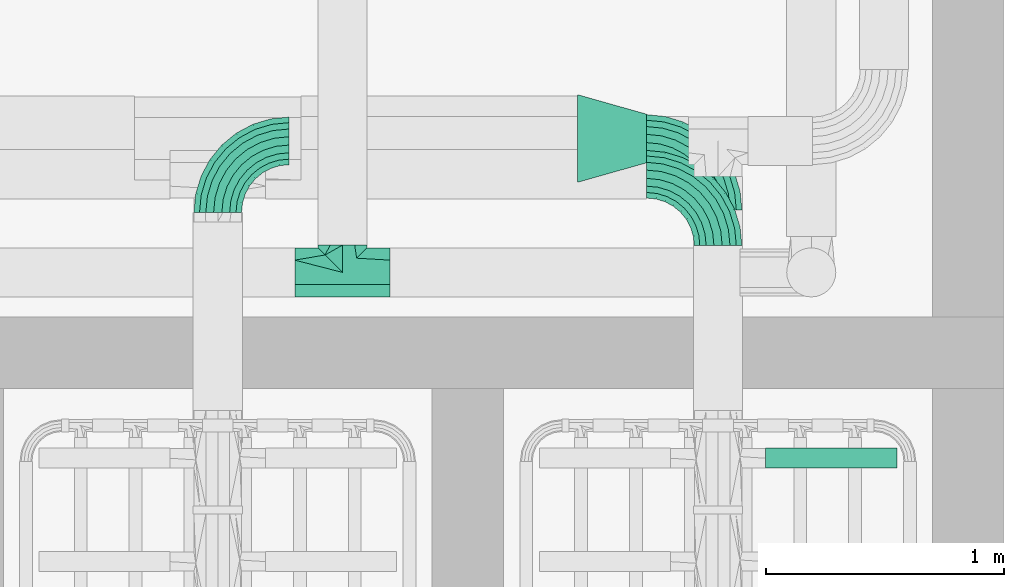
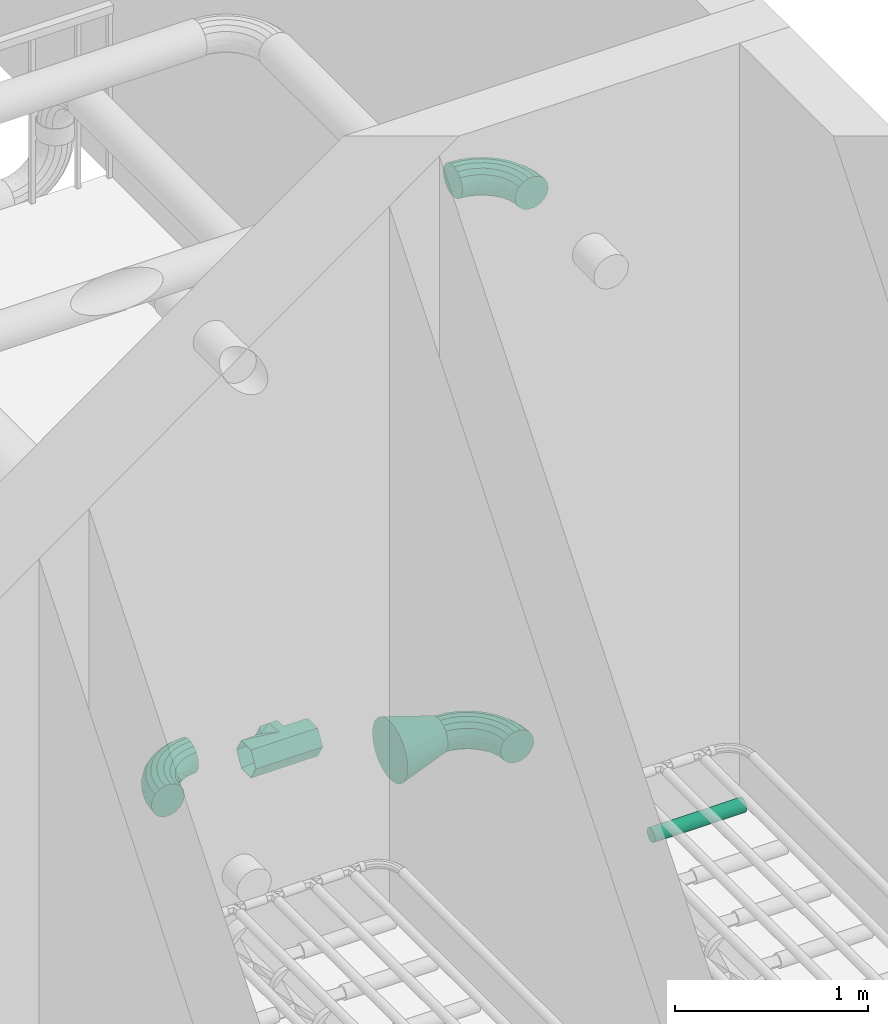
# One storey, part 22 of 28: 5 flow fittings, 1 flow segment.
"""IFC2X3 building model written with IfcOpenShell, lengths in millimetres."""

from ifc_helpers import new_model, entity, si_unit, converted_unit, direction, frame, origin, origin_2d_with_axis, place, context, subcontext, project, spatial, circle, extrude, faceted_brep, source, transform, mapped, material, type_object, type_shapes, element, save


model = new_model("IFC2X3")

# Units and contexts
model_context = context("Model", 3, precision=0.01, world=origin(), true_north=direction((6.123031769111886e-17, 1.0)))
body_context = subcontext(model_context, "Body", "Model", "MODEL_VIEW")
ifc_project = project(units=[si_unit("LENGTHUNIT", "METRE", prefix="MILLI"), converted_unit("PLANEANGLEUNIT", "DEGREE", entity("IfcPlaneAngleMeasure", 0.017453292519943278), si_unit("PLANEANGLEUNIT", "RADIAN"), dimensions=[0, 0, 0, 0, 0, 0, 0]), si_unit("AREAUNIT", "SQUARE_METRE")], contexts=[model_context])

# Site, building, storey
site_placement = place(None, frame((7776.576483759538, 118.3519876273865, 0.0)))
site = spatial("IfcSite", under=ifc_project, at=site_placement, Name="Default", CompositionType="ELEMENT")
building_placement = place(site_placement, origin())
building = spatial("IfcBuilding", under=site, at=building_placement, Name="Bygning (endres i Project Information)", CompositionType="ELEMENT")
storey_placement = place(building_placement, frame((0.0, 0.0, 14000.0)))
storey = spatial("IfcBuildingStorey", under=building, at=storey_placement, Name="Plan U1 - Arbeid", CompositionType="ELEMENT", Elevation=14000.000000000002)

# Flow segment
ifc_material_1 = material(Name="SS 2343 Rustfritt stål, prosessrør, generisk")
pipe_segment_type = type_object("IfcPipeSegmentType", Name="Pipe Types:AISI 304L Rustfritt", PredefinedType="NOTDEFINED", material=ifc_material_1)
flow_segment_placement = place(storey_placement, origin())
element("IfcFlowSegment", 1, at=flow_segment_placement, inside=storey, type_object=pipe_segment_type, Name="Pipe Types:AISI 304L Rustfritt", ObjectType="Pipe Types:AISI 304L Rustfritt", context=body_context, shape_type="SweptSolid", body=[
    extrude(circle(Radius=42.0, at=origin_2d_with_axis()), frame((31274.00137486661, 23905.757305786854, 203.0), z_axis=(1.0, 0.0, 0.0), x_axis=(0.0, -1.0, 0.0)), (0.0, 0.0, 1.0), 549.99999999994),
])

# Flow fittings
ifc_material_2 = material(Name="Rustfritt")
pipe_fitting_type_1 = type_object("IfcPipeFittingType", Name="T-rør,Rustfritt EN 1,4307304L, sveiste, oppkraget, metrisk, EN 10253-4:Standard", PredefinedType="NOTDEFINED", material=ifc_material_2)
shared_shape_1 = source(origin(), body_context, "Body", "Brep", [
    faceted_brep([(-200.0, 51.49999999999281, -89.20061658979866), (-200.0, 50.0, -86.60254037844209), (-200.0, 75.0, -43.3012701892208), (-200.0, 100.0, 0.0), (-200.0, 81.21564460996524, -37.73161034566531), (-200.0, 0.0, -86.60254037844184), (-200.0, -50.0, -86.60254037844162), (-200.0, 0.0, -89.20061658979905), (-200.0, -51.50000000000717, -89.20061658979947), (-200.0, -75.0, -43.30127018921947), (-200.0, -100.0, 0.0), (-200.0, -77.25000000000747, -44.60030829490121), (-200.0, -103.0, 0.0), (-200.0, -87.50000000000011, 21.65063509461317), (-200.0, -75.0, 43.301270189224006), (-200.0, -50.0, 86.60254037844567), (-200.0, -90.1250000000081, 22.30015414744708), (-200.0, -77.25000000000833, 44.60030829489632), (-200.0, -51.50000000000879, 89.20061658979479), (-200.0, 0.0, 89.20061658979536), (-200.0, 51.499999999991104, 89.20061658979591), (-200.0, 0.0, 86.60254037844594), (-200.0, 50.0, 86.60254037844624), (-200.0, 77.24999999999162, 44.60030829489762), (-200.0, 103.0, 0.0), (-200.0, 79.16042262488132, 36.09520682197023), (200.0, 51.49999999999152, -89.20061658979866), (200.0, 100.0, 0.0), (200.0, 75.0, -43.30127018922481), (200.0, 77.2499999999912, -44.6003082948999), (200.0, 50.0, -86.60254037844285), (200.0, 0.0, -86.60254037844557), (200.0, -50.0, -86.6025403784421), (200.0, 0.0, -89.20061658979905), (200.0, 103.0, 0.0), (200.0, 75.0, 43.301270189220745), (200.0, 50.0, 86.60254037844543), (200.0, 77.24999999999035, 44.600308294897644), (200.0, 51.49999999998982, 89.20061658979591), (200.0, 0.0, 86.60254037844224), (200.0, -50.0, 86.60254037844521), (200.0, 0.0, 89.20061658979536), (200.0, -51.500000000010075, 89.20061658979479), (200.0, -77.25000000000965, 44.600308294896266), (200.0, -103.0, 0.0), (200.0, -75.0, 43.301270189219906), (200.0, -100.0, 0.0), (200.0, -90.12500000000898, -22.30015414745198), (200.0, -77.2500000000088, -44.60030829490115), (200.0, -51.500000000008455, -89.20061658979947), (200.0, -75.0, -43.30127018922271), (200.0, -87.50000000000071, -21.65063509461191), (87.99487622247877, -87.99487622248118, 36.336951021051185), (72.98975244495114, -72.98975244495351, 72.67390204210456), (0.0, 0.0, 103.0), (-59.744280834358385, -59.7442808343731, 83.90244875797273), (103.0, -103.0, 0.0), (-103.0, -103.0, 0.0), (-83.0022440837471, -83.00224408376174, 38.78933753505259), (-81.372140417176, -81.37214041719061, 41.951224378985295), (-98.9088238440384, -98.90882384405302, 7.935591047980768), (-92.18607020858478, -92.18607020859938, 20.975612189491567), (0.0, 0.0, -103.0), (83.00224409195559, -83.00224409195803, -38.78933751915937), (81.37214041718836, -81.37214041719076, -41.95122437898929), (59.74428083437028, -59.7442808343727, -83.90244875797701), (-87.99487622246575, -87.9948762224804, -36.33695102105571), (98.90882384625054, -98.90882384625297, -7.935591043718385), (92.18607020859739, -92.18607020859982, -20.975612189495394), (-72.98975244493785, -72.98975244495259, -72.67390204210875), (51.50000000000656, -114.28571428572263, -89.20061658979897), (100.0, -114.28571428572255, 0.0), (81.76537069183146, -114.28571428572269, -31.583304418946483), (83.93868883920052, -114.2857142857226, -33.01515938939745), (50.0, -114.28571428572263, -86.60254037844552), (0.0, -114.28571428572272, -86.60254037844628), (-50.0, -114.2857142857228, -86.60254037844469), (0.0, -114.28571428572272, -89.20061658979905), (93.46934441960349, -114.28571428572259, -16.50757969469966), (103.0, -114.28571428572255, 0.0), (75.0, -114.28571428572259, 43.30127018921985), (50.0, -114.28571428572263, 86.6025403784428), (77.25000000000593, -114.28571428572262, 44.60030829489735), (51.500000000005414, -114.28571428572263, 89.20061658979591), (0.0, -114.28571428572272, 86.60254037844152), (-50.0, -114.2857142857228, 86.6025403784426), (0.0, -114.28571428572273, 89.20061658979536), (-51.49999999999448, -114.2857142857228, 89.20061658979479), (-83.93868900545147, -114.28571428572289, 33.01515910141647), (-93.4693445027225, -114.28571428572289, 16.50757955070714), (-103.0, -114.28571428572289, 0.0), (-81.7653681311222, -114.28571428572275, 31.583308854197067), (-100.0, -114.28571428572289, 0.0), (-77.24999999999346, -114.28571428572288, -44.60030829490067), (-51.499999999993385, -114.2857142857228, -89.20061658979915), (-75.0, -114.28571428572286, -43.30127018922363), (-85.42830493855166, -85.42830493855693, -35.282222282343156), (-70.85660987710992, -70.85660987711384, -70.56444456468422), (78.99890634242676, -78.99890634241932, -40.731602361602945), (-100.0, -100.0, 0.0), (57.99781268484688, -57.9978126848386, -81.46320472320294), (89.49945317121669, -89.49945317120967, -20.36580118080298), (0.0, 0.0, -100.0), (80.8612318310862, -80.86123183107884, -37.11962374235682), (100.0, -100.0, 0.0), (85.42830493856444, -85.42830493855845, 35.28222228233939), (70.85660987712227, -70.85660987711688, 70.56444456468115), (-78.99890634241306, -78.99890634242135, 40.731602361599), (-57.99781268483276, -57.99781268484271, 81.46320472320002), (-89.49945317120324, -89.49945317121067, 20.36580118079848), (0.0, 0.0, 100.0), (-80.86123190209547, -80.86123190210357, 37.119623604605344)], [[[0, 1, 2]], [[0, 2, 3]], [[3, 4, 0]], [[0, 5, 1]], [[0, 6, 5]], [[6, 0, 7]], [[6, 7, 8]], [[8, 9, 6]], [[8, 10, 9]], [[10, 8, 11]], [[10, 11, 12]], [[12, 13, 10]], [[12, 14, 13]], [[12, 15, 14]], [[15, 12, 16]], [[15, 16, 17]], [[15, 17, 18]], [[15, 18, 19]], [[15, 19, 20]], [[20, 21, 15]], [[20, 22, 21]], [[22, 20, 23]], [[22, 23, 24]], [[3, 24, 4]], [[24, 3, 25]], [[24, 25, 22]], [[26, 27, 28]], [[27, 26, 29]], [[26, 28, 30]], [[26, 30, 31]], [[26, 31, 32]], [[32, 33, 26]], [[27, 29, 34]], [[34, 35, 27]], [[34, 36, 35]], [[36, 34, 37]], [[36, 37, 38]], [[38, 39, 36]], [[38, 40, 39]], [[40, 38, 41]], [[40, 41, 42]], [[40, 42, 43]], [[40, 43, 44]], [[44, 45, 40]], [[44, 46, 45]], [[46, 44, 47]], [[46, 47, 48]], [[46, 48, 49]], [[49, 32, 50]], [[32, 49, 33]], [[49, 50, 51]], [[49, 51, 46]], [[43, 52, 44]], [[53, 43, 42]], [[54, 42, 41, 38]], [[17, 55, 18]], [[44, 52, 56]], [[12, 57, 16]], [[43, 53, 52]], [[42, 54, 53]], [[24, 23, 20, 38, 37, 34]], [[18, 54, 20, 19]], [[18, 55, 54]], [[58, 17, 16]], [[20, 54, 38]], [[17, 58, 59, 55]], [[16, 57, 60, 61, 58]], [[0, 4, 24, 34, 29, 26]], [[62, 26, 33, 49]], [[0, 26, 62]], [[0, 62, 8, 7]], [[63, 48, 47]], [[48, 63, 64, 65]], [[12, 66, 57]], [[56, 47, 44]], [[47, 56, 67, 68, 63]], [[65, 49, 48]], [[69, 8, 62]], [[11, 66, 12]], [[11, 69, 66]], [[69, 11, 8]], [[49, 65, 62]], [[70, 71, 72]], [[71, 70, 73]], [[70, 72, 74]], [[70, 74, 75]], [[70, 75, 76]], [[76, 77, 70]], [[71, 73, 78]], [[71, 78, 79]], [[79, 80, 71]], [[79, 81, 80]], [[81, 79, 82]], [[81, 82, 83]], [[83, 84, 81]], [[83, 85, 84]], [[85, 83, 86]], [[85, 86, 87]], [[85, 87, 88]], [[85, 88, 89]], [[85, 89, 90]], [[90, 91, 85]], [[90, 92, 91]], [[92, 90, 93]], [[92, 93, 94]], [[94, 76, 95]], [[76, 94, 77]], [[94, 95, 92]], [[59, 87, 55]], [[55, 86, 54]], [[53, 83, 82]], [[60, 57, 90]], [[55, 87, 86]], [[61, 60, 89]], [[56, 52, 79]], [[60, 90, 89]], [[79, 52, 82]], [[53, 82, 52]], [[88, 59, 58, 61]], [[61, 89, 88]], [[83, 53, 86]], [[86, 53, 54]], [[87, 59, 88]], [[64, 70, 65]], [[70, 64, 73]], [[90, 66, 93]], [[67, 56, 79]], [[65, 70, 77]], [[73, 64, 63, 68]], [[57, 66, 90]], [[69, 94, 93]], [[68, 67, 78]], [[69, 93, 66]], [[67, 79, 78]], [[77, 69, 62]], [[94, 69, 77]], [[65, 77, 62]], [[68, 78, 73]], [[96, 95, 97]], [[95, 96, 92]], [[72, 98, 74]], [[92, 96, 99]], [[75, 74, 100]], [[95, 76, 97]], [[101, 72, 71]], [[100, 74, 98]], [[102, 97, 75]], [[72, 101, 103, 98]], [[102, 75, 100]], [[97, 76, 75]], [[104, 101, 71]], [[105, 80, 106]], [[91, 107, 85]], [[80, 105, 71]], [[71, 105, 104]], [[84, 85, 108]], [[109, 91, 92]], [[107, 108, 85]], [[109, 92, 99]], [[110, 106, 84]], [[80, 81, 106]], [[110, 84, 108]], [[106, 81, 84]], [[91, 109, 111, 107]], [[10, 96, 9]], [[6, 9, 97]], [[31, 30, 102, 32]], [[32, 100, 50]], [[99, 96, 10]], [[51, 104, 46]], [[51, 103, 101, 104]], [[97, 102, 6]], [[96, 97, 9]], [[1, 5, 6, 102]], [[2, 1, 30, 28, 27, 3]], [[102, 100, 32]], [[1, 102, 30]], [[51, 50, 103]], [[50, 100, 98, 103]], [[25, 3, 27, 35, 36, 22]], [[110, 15, 21, 22]], [[110, 22, 36]], [[110, 36, 39, 40]], [[105, 106, 45]], [[108, 15, 110]], [[14, 15, 108]], [[13, 99, 10]], [[13, 111, 109, 99]], [[104, 105, 46]], [[45, 106, 40]], [[106, 110, 40]], [[46, 105, 45]], [[13, 14, 111]], [[14, 108, 107, 111]]]),
])
type_shapes(pipe_fitting_type_1, [shared_shape_1])
flow_fitting_1_placement = place(storey_placement, frame((29497.263964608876, 24685.757305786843, 903.5000000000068), z_axis=(0.0, 0.0, 1.0), x_axis=(-1.0, 0.0, 0.0)))
element("IfcFlowFitting", 2, at=flow_fitting_1_placement, inside=storey, type_object=pipe_fitting_type_1, material=ifc_material_2, Name="T-rør,Rustfritt EN 1,4307304L, sveiste, oppkraget, metrisk, EN 10253-4:Standard", ObjectType="T-rør,Rustfritt EN 1,4307304L, sveiste, oppkraget, metrisk, EN 10253-4:Standard", context=body_context, shape_type="MappedRepresentation", body=[
    mapped(shared_shape_1, transform((0.0, 0.0, 0.0), scale=1.0)),
])
pipe_fitting_type_2 = type_object("IfcPipeFittingType", Name="VA_prosess_rustfritt_bend_D+100:VA_prosess_rustfritt_bend_D+100", PredefinedType="NOTDEFINED", material=ifc_material_1)
shared_shape_2 = source(origin(), body_context, "Body", "Brep", [
    faceted_brep([(-221.96387119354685, -92.314112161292, 0.0), (-223.1404097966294, -86.39925317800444, 34.202014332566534), (-300.0, -93.96926207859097, 34.202014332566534), (-300.0, -100.0, 0.0), (-226.52811768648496, -69.36809551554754, 64.27876096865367), (-300.0, -76.60444431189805, 64.27876096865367), (-231.71838729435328, -43.274848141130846, 86.60254037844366), (-300.0, -50.0, 86.60254037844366), (-238.08519550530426, -11.266741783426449, 98.48077530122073), (-300.0, -17.36481776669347, 98.48077530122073), (-244.86061128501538, 22.79557354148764, 98.48077530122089), (-300.0, 17.36481776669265, 98.48077530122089), (-251.22741949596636, 54.80367989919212, 86.60254037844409), (-300.0, 50.0, 86.60254037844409), (-256.41768910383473, 80.89692727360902, 64.27876096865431), (-300.0, 76.60444431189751, 64.27876096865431), (-259.8053969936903, 97.92808493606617, 34.202014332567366), (-300.0, 93.96926207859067, 34.202014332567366), (-260.9819355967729, 103.84294391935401, 0.0), (-300.0, 100.0, 0.0), (-259.8053969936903, 97.92808493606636, -34.20201433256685), (-300.0, 93.96926207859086, -34.20201433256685), (-256.4176891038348, 80.89692727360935, -64.2787609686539), (-300.0, 76.60444431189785, -64.2787609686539), (-251.22741949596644, 54.80367989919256, -86.60254037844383), (-300.0, 50.0, -86.60254037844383), (-244.86061128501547, 22.795573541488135, -98.48077530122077), (-300.0, 17.364817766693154, -98.48077530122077), (-238.08519550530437, -11.26674178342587, -98.48077530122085), (-300.0, -17.36481776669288, -98.48077530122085), (-231.71838729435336, -43.27484814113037, -86.60254037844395), (-300.0, -50.0, -86.60254037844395), (-226.52811768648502, -69.3680955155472, -64.27876096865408), (-300.0, -76.6044443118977, -64.27876096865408), (-223.14040979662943, -86.39925317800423, -34.2020143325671), (-300.0, -93.96926207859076, -34.2020143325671), (-146.9266270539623, -69.55181300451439, 0.0), (-149.2344905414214, -63.98013767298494, 34.202014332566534), (-155.87971860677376, -47.937137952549, 64.27876096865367), (-166.06079867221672, -23.357836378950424, 86.60254037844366), (-178.54974222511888, 6.79314052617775, 98.48077530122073), (-191.8401983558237, 38.87913996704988, 98.48077530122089), (-204.32914190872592, 69.03011687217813, 86.60254037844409), (-214.51022197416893, 93.6094184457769, 64.27876096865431), (-221.15545003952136, 109.65241816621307, 34.202014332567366), (-223.46331352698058, 115.2240934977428, 0.0), (-221.15545003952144, 109.65241816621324, -34.20201433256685), (-214.51022197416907, 93.60941844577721, -64.2787609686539), (-204.3291419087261, 69.03011687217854, -86.60254037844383), (-191.8401983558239, 38.87913996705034, -98.48077530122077), (-178.5497422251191, 6.7931405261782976, -98.48077530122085), (-166.0607986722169, -23.357836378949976, -86.60254037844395), (-155.8797186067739, -47.937137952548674, -64.27876096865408), (-149.23449054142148, -63.98013767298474, -34.2020143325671), (-77.77190679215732, -32.58784492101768, 0.0), (-81.12240526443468, -27.573469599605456, 34.202014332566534), (-90.76978111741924, -13.135151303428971, 64.27876096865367), (-105.5504184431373, 8.985635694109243, 86.60254037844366), (-123.68155424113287, 36.120798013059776, 98.48077530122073), (-142.97630594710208, 64.997434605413, 98.48077530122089), (-161.1074417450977, 92.13259692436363, 86.60254037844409), (-175.88807907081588, 114.253383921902, 64.27876096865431), (-185.53545492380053, 128.69170221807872, 34.202014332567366), (-188.88595339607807, 133.70607753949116, 0.0), (-185.53545492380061, 128.69170221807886, -34.20201433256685), (-175.88807907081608, 114.25338392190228, -64.2787609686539), (-161.10744174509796, 92.132596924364, -86.60254037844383), (-142.97630594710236, 64.99743460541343, -98.48077530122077), (-123.68155424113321, 36.120798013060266, -98.48077530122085), (-105.55041844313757, 8.985635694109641, -86.60254037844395), (-90.76978111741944, -13.135151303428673, -64.27876096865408), (-81.12240526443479, -27.573469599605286, -34.2020143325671), (-17.15728752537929, 17.157287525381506, 0.0), (-21.421663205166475, 21.42166320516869, 34.202014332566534), (-33.70044360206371, 33.700443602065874, 64.27876096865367), (-52.51262658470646, 52.512626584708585, 86.60254037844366), (-75.58918524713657, 75.58918524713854, 98.48077530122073), (-100.14674604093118, 100.14674604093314, 98.48077530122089), (-123.22330470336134, 123.22330470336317, 86.60254037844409), (-142.03548768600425, 142.035487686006, 64.27876096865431), (-154.3142680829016, 154.3142680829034, 34.202014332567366), (-158.578643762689, 158.57864376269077, 0.0), (-154.31426808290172, 154.31426808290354, -34.20201433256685), (-142.03548768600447, 142.03548768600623, -64.2787609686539), (-123.22330470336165, 123.2233047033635, -86.60254037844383), (-100.14674604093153, 100.1467460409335, -98.48077530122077), (-75.58918524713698, 75.58918524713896, -98.48077530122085), (-52.51262658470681, 52.512626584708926, -86.60254037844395), (-33.700443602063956, 33.70044360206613, -64.27876096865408), (-21.42166320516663, 21.421663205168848, -34.2020143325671), (32.58784492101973, 77.77190679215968, 0.0), (27.573469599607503, 81.12240526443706, 34.202014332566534), (13.135151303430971, 90.76978111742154, 64.27876096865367), (-8.985635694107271, 105.55041844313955, 86.60254037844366), (-36.1207980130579, 123.68155424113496, 98.48077530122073), (-64.99743460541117, 142.97630594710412, 98.48077530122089), (-92.13259692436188, 161.10744174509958, 86.60254037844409), (-114.25338392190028, 175.88807907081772, 64.27876096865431), (-128.69170221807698, 185.53545492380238, 34.202014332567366), (-133.70607753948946, 188.8859533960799, 0.0), (-128.69170221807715, 185.5354549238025, -34.20201433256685), (-114.25338392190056, 175.8880790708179, -64.2787609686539), (-92.13259692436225, 161.10744174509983, -86.60254037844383), (-64.99743460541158, 142.9763059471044, -98.48077530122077), (-36.12079801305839, 123.68155424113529, -98.48077530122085), (-8.985635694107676, 105.55041844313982, -86.60254037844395), (13.13515130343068, 90.76978111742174, -64.27876096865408), (27.573469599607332, 81.12240526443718, -34.2020143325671), (69.55181300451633, 146.92662705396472, 0.0), (63.98013767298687, 149.23449054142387, 34.202014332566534), (47.937137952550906, 155.87971860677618, 64.27876096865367), (23.357836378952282, 166.06079867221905, 86.60254037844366), (-6.793140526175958, 178.54974222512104, 98.48077530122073), (-38.879139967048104, 191.8401983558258, 98.48077530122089), (-69.03011687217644, 204.32914190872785, 86.60254037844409), (-93.60941844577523, 214.5102219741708, 64.27876096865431), (-109.65241816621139, 221.15545003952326, 34.202014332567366), (-115.22409349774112, 223.46331352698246, 0.0), (-109.65241816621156, 221.15545003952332, -34.20201433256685), (-93.60941844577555, 214.51022197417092, -64.2787609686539), (-69.03011687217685, 204.32914190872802, -86.60254037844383), (-38.87913996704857, 191.840198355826, -98.48077530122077), (-6.793140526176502, 178.54974222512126, -98.48077530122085), (23.357836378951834, 166.06079867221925, -86.60254037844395), (47.93713795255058, 155.87971860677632, -64.27876096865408), (63.98013767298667, 149.23449054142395, -34.2020143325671), (92.31411216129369, 221.96387119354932, 0.0), (86.39925317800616, 223.1404097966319, 34.202014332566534), (69.36809551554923, 226.52811768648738, 64.27876096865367), (43.27484814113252, 231.71838729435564, 86.60254037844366), (11.266741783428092, 238.08519550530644, 98.48077530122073), (-22.795573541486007, 244.86061128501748, 98.48077530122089), (-54.80367989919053, 251.22741949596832, 86.60254037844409), (-80.89692727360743, 256.4176891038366, 64.27876096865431), (-97.9280849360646, 259.80539699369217, 34.202014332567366), (-103.84294391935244, 260.9819355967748, 0.0), (-97.92808493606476, 259.8053969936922, -34.20201433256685), (-80.89692727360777, 256.41768910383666, -64.2787609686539), (-54.80367989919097, 251.2274194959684, -86.60254037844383), (-22.795573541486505, 244.8606112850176, -98.48077530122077), (11.266741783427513, 238.08519550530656, -98.48077530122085), (43.27484814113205, 231.71838729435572, -86.60254037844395), (69.36809551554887, 226.52811768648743, -64.27876096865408), (86.39925317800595, 223.14040979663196, -34.2020143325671), (100.0, 300.0, 0.0), (93.96926207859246, 300.0, 34.202014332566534), (76.60444431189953, 300.0, 64.27876096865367), (50.0, 300.0, 86.60254037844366), (17.36481776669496, 300.0, 98.48077530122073), (-17.36481776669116, 300.0, 98.48077530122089), (-50.0, 300.0, 86.60254037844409), (-76.60444431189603, 300.0, 64.27876096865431), (-93.9692620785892, 300.0, 34.202014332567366), (-100.0, 300.0, 0.0), (-93.96926207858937, 300.0, -34.20201433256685), (-76.60444431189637, 300.0, -64.2787609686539), (-50.0, 300.0, -86.60254037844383), (-17.364817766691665, 300.0, -98.48077530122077), (17.36481776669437, 300.0, -98.48077530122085), (50.0, 300.0, -86.60254037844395), (76.60444431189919, 300.0, -64.27876096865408), (93.96926207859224, 300.0, -34.2020143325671)], [[[0, 1, 2, 3]], [[1, 4, 5, 2]], [[4, 6, 7, 5]], [[6, 8, 9, 7]], [[8, 10, 11, 9]], [[10, 12, 13, 11]], [[12, 14, 15, 13]], [[14, 16, 17, 15]], [[16, 18, 19, 17]], [[18, 20, 21, 19]], [[20, 22, 23, 21]], [[22, 24, 25, 23]], [[24, 26, 27, 25]], [[26, 28, 29, 27]], [[28, 30, 31, 29]], [[30, 32, 33, 31]], [[32, 34, 35, 33]], [[34, 0, 3, 35]], [[36, 37, 1, 0]], [[37, 38, 4, 1]], [[38, 39, 6, 4]], [[39, 40, 8, 6]], [[40, 41, 10, 8]], [[41, 42, 12, 10]], [[42, 43, 14, 12]], [[43, 44, 16, 14]], [[44, 45, 18, 16]], [[45, 46, 20, 18]], [[46, 47, 22, 20]], [[47, 48, 24, 22]], [[48, 49, 26, 24]], [[49, 50, 28, 26]], [[50, 51, 30, 28]], [[51, 52, 32, 30]], [[52, 53, 34, 32]], [[53, 36, 0, 34]], [[54, 55, 37, 36]], [[55, 56, 38, 37]], [[56, 57, 39, 38]], [[57, 58, 40, 39]], [[58, 59, 41, 40]], [[59, 60, 42, 41]], [[60, 61, 43, 42]], [[61, 62, 44, 43]], [[62, 63, 45, 44]], [[63, 64, 46, 45]], [[64, 65, 47, 46]], [[65, 66, 48, 47]], [[66, 67, 49, 48]], [[67, 68, 50, 49]], [[68, 69, 51, 50]], [[69, 70, 52, 51]], [[70, 71, 53, 52]], [[71, 54, 36, 53]], [[72, 73, 55, 54]], [[73, 74, 56, 55]], [[74, 75, 57, 56]], [[75, 76, 58, 57]], [[76, 77, 59, 58]], [[77, 78, 60, 59]], [[78, 79, 61, 60]], [[79, 80, 62, 61]], [[80, 81, 63, 62]], [[81, 82, 64, 63]], [[82, 83, 65, 64]], [[83, 84, 66, 65]], [[84, 85, 67, 66]], [[85, 86, 68, 67]], [[86, 87, 69, 68]], [[87, 88, 70, 69]], [[88, 89, 71, 70]], [[89, 72, 54, 71]], [[90, 91, 73, 72]], [[91, 92, 74, 73]], [[92, 93, 75, 74]], [[93, 94, 76, 75]], [[94, 95, 77, 76]], [[95, 96, 78, 77]], [[96, 97, 79, 78]], [[97, 98, 80, 79]], [[98, 99, 81, 80]], [[99, 100, 82, 81]], [[100, 101, 83, 82]], [[101, 102, 84, 83]], [[102, 103, 85, 84]], [[103, 104, 86, 85]], [[104, 105, 87, 86]], [[105, 106, 88, 87]], [[106, 107, 89, 88]], [[107, 90, 72, 89]], [[108, 109, 91, 90]], [[109, 110, 92, 91]], [[110, 111, 93, 92]], [[111, 112, 94, 93]], [[112, 113, 95, 94]], [[113, 114, 96, 95]], [[114, 115, 97, 96]], [[115, 116, 98, 97]], [[116, 117, 99, 98]], [[117, 118, 100, 99]], [[118, 119, 101, 100]], [[119, 120, 102, 101]], [[120, 121, 103, 102]], [[121, 122, 104, 103]], [[122, 123, 105, 104]], [[123, 124, 106, 105]], [[124, 125, 107, 106]], [[125, 108, 90, 107]], [[126, 127, 109, 108]], [[127, 128, 110, 109]], [[128, 129, 111, 110]], [[129, 130, 112, 111]], [[130, 131, 113, 112]], [[131, 132, 114, 113]], [[132, 133, 115, 114]], [[133, 134, 116, 115]], [[134, 135, 117, 116]], [[135, 136, 118, 117]], [[136, 137, 119, 118]], [[137, 138, 120, 119]], [[138, 139, 121, 120]], [[139, 140, 122, 121]], [[140, 141, 123, 122]], [[141, 142, 124, 123]], [[142, 143, 125, 124]], [[143, 126, 108, 125]], [[144, 145, 127, 126]], [[145, 146, 128, 127]], [[146, 147, 129, 128]], [[147, 148, 130, 129]], [[148, 149, 131, 130]], [[149, 150, 132, 131]], [[150, 151, 133, 132]], [[151, 152, 134, 133]], [[152, 153, 135, 134]], [[153, 154, 136, 135]], [[154, 155, 137, 136]], [[155, 156, 138, 137]], [[156, 157, 139, 138]], [[157, 158, 140, 139]], [[158, 159, 141, 140]], [[159, 160, 142, 141]], [[160, 161, 143, 142]], [[161, 144, 126, 143]], [[3, 2, 5, 7, 9, 11, 13, 15, 17, 19, 21, 23, 25, 27, 29, 31, 33, 35]], [[161, 160, 159, 158, 157, 156, 155, 154, 153, 152, 151, 150, 149, 148, 147, 146, 145, 144]]]),
])
type_shapes(pipe_fitting_type_2, [shared_shape_2])
for number, where, z_axis, x_axis in (
    (3, (28974.00137486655, 25237.75730578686, 603.0), (0.0, 0.0, 1.0), (-1.0, 0.0, 0.0)),
    (4, (31074.00137486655, 25097.757305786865, 3803.0), (0.0, 0.0, 1.0), (0.0, 1.0, 0.0)),
    (5, (31074.001374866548, 25247.757305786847, 203.0), (0.0, 0.0, 1.0), (0.0, 1.0, 0.0)),
):
    element("IfcFlowFitting", number, at=place(storey_placement, frame(where, z_axis=z_axis, x_axis=x_axis)), inside=storey, type_object=pipe_fitting_type_2, material=ifc_material_1, Name="VA_prosess_rustfritt_bend_D+100:VA_prosess_rustfritt_bend_D+100", ObjectType="VA_prosess_rustfritt_bend_D+100:VA_prosess_rustfritt_bend_D+100", context=body_context, shape_type="MappedRepresentation", body=[
        mapped(shared_shape_2, transform((0.0, 0.0, 0.0), scale=1.0)),
    ])
pipe_fitting_type_3 = type_object("IfcPipeFittingType", Name="Overganger, konsentriske, rustfritt EN 1,4307304L:Standard", PredefinedType="NOTDEFINED", material=ifc_material_1)
shared_shape_3 = source(origin(), body_context, "Body", "Brep", [
    faceted_brep([(289.7000000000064, 91.89999999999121, 159.17546921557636), (289.70000000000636, 47.5709404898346, 177.53716687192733), (289.7000000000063, 0.0, 183.7999999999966), (289.70000000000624, -47.57094048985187, 177.5371668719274), (289.7000000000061, -91.90000000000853, 159.17546921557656), (289.70000000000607, -129.966226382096, 129.9662263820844), (289.700000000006, -159.17546921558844, 91.89999999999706), (289.70000000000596, -177.5371668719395, 47.57094048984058), (289.70000000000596, -183.80000000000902, 0.0), (289.70000000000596, -177.53716687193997, -47.57094048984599), (289.700000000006, -159.17546921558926, -91.90000000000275), (289.70000000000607, -129.96622638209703, -129.96622638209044), (289.7000000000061, -91.90000000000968, -159.17546921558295), (289.70000000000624, -47.57094048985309, -177.5371668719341), (289.7000000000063, 0.0, -183.80000000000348), (289.70000000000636, 47.57094048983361, -177.53716687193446), (289.7000000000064, 91.89999999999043, -159.17546921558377), (289.70000000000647, 129.96622638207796, -129.96622638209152), (289.7000000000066, 159.17546921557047, -91.90000000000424), (289.7000000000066, 177.53716687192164, -47.57094048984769), (289.7000000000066, 183.79999999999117, 0.0), (289.7000000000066, 177.53716687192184, 47.57094048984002), (289.7000000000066, 159.17546921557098, 91.89999999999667), (289.70000000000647, 129.96622638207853, 129.96622638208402), (0.0, -17.71211412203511, 100.45039080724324), (0.0, 17.71211412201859, 100.45039080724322), (0.0, 51.0, 88.33459118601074), (0.0, 78.13653319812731, 65.56433618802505), (0.0, 95.84864732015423, 34.88605461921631), (0.0, 102.0, 0.0), (0.0, 95.84864732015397, -34.88605461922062), (0.0, 78.13653319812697, -65.56433618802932), (0.0, 51.0, -88.33459118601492), (0.0, 17.712114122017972, -100.45039080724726), (0.0, -17.712114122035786, -100.4503908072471), (0.0, -51.0, -88.33459118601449), (0.0, -78.13653319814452, -65.56433618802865), (0.0, -95.84864732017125, -34.886054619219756), (0.0, -102.0, 0.0), (0.0, -95.8486473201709, 34.88605461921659), (0.0, -78.13653319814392, 65.56433618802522), (0.0, -51.0, 88.33459118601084)], [[[0, 1, 2, 3, 4, 5, 6, 7, 8, 9, 10, 11, 12, 13, 14, 15, 16, 17, 18, 19, 20, 21, 22, 23]], [[24, 25, 26, 27, 28, 29, 30, 31, 32, 33, 34, 35, 36, 37, 38, 39, 40, 41]], [[9, 38, 37]], [[11, 36, 35]], [[10, 37, 36]], [[13, 35, 34]], [[9, 8, 38]], [[10, 9, 37]], [[35, 12, 11]], [[11, 10, 36]], [[13, 12, 35]], [[34, 14, 13]], [[15, 14, 33]], [[33, 14, 34]], [[32, 15, 33]], [[18, 31, 30]], [[17, 32, 31]], [[19, 30, 29]], [[32, 16, 15]], [[32, 17, 16]], [[18, 17, 31]], [[30, 19, 18]], [[29, 20, 19]], [[21, 29, 28]], [[23, 27, 26]], [[22, 28, 27]], [[1, 26, 25]], [[21, 20, 29]], [[22, 21, 28]], [[26, 0, 23]], [[23, 22, 27]], [[1, 0, 26]], [[25, 2, 1]], [[3, 2, 24]], [[24, 2, 25]], [[41, 3, 24]], [[6, 40, 39]], [[5, 41, 40]], [[7, 39, 38]], [[41, 4, 3]], [[41, 5, 4]], [[6, 5, 40]], [[39, 7, 6]], [[38, 8, 7]]]),
])
type_shapes(pipe_fitting_type_3, [shared_shape_3])
flow_fitting_2_placement = place(storey_placement, frame((30774.001374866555, 25247.75730578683, 203.0), z_axis=(0.0, 0.0, 1.0), x_axis=(-1.0, 0.0, 0.0)))
element("IfcFlowFitting", 6, at=flow_fitting_2_placement, inside=storey, type_object=pipe_fitting_type_3, material=ifc_material_1, Name="Overganger, konsentriske, rustfritt EN 1,4307304L:Standard", ObjectType="Overganger, konsentriske, rustfritt EN 1,4307304L:Standard", context=body_context, shape_type="MappedRepresentation", body=[
    mapped(shared_shape_3, transform((0.0, 0.0, 0.0), scale=1.0)),
])

save(model, "model.ifc")
